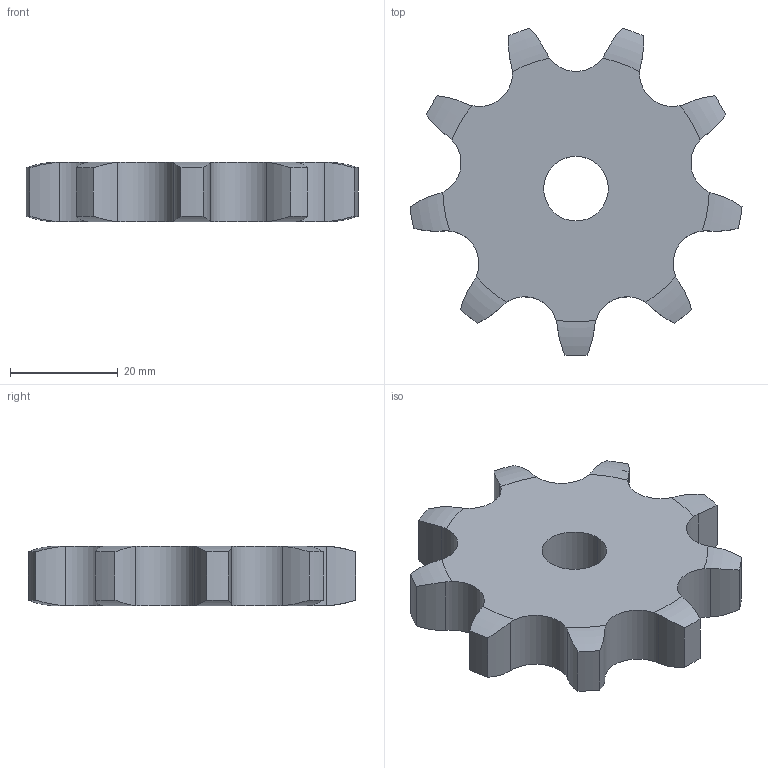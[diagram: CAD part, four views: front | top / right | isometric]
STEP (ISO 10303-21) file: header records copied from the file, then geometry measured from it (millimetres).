
FILE_DESCRIPTION((''),'2;1');
FILE_NAME('500-401-0009_PRT','2021-02-12T',('Brieden'),('Brieden'),'PRO/ENGINEER BY PARAMETRIC TECHNOLOGY CORPORATION, 2010160','PRO/ENGINEER BY PARAMETRIC TECHNOLOGY CORPORATION, 2010160','');
FILE_SCHEMA(('AUTOMOTIVE_DESIGN { 1 0 10303 214 1 1 1 1 }'));
Length unit declared in the file: millimetre
Products named in the file (1): 500-401-0009_PRT
Bounding box: 61.64 x 60.76 x 11.1 mm (x, y, z)
Volume: 21638 mm3; surface area: 7091.5 mm2
Topology: 1 solids, 1 shells, 58 faces, 168 edges, 112 vertices
Faces by surface type: cylinder 38, torus 18, plane 2
Entity records: 2724 total; most frequent: CARTESIAN_POINT 701, ORIENTED_EDGE 336, DIRECTION 270, PRESENTATION_STYLE_ASSIGNMENT 169, STYLED_ITEM 169, CURVE_STYLE 168, EDGE_CURVE 168, AXIS2_PLACEMENT_3D 116
